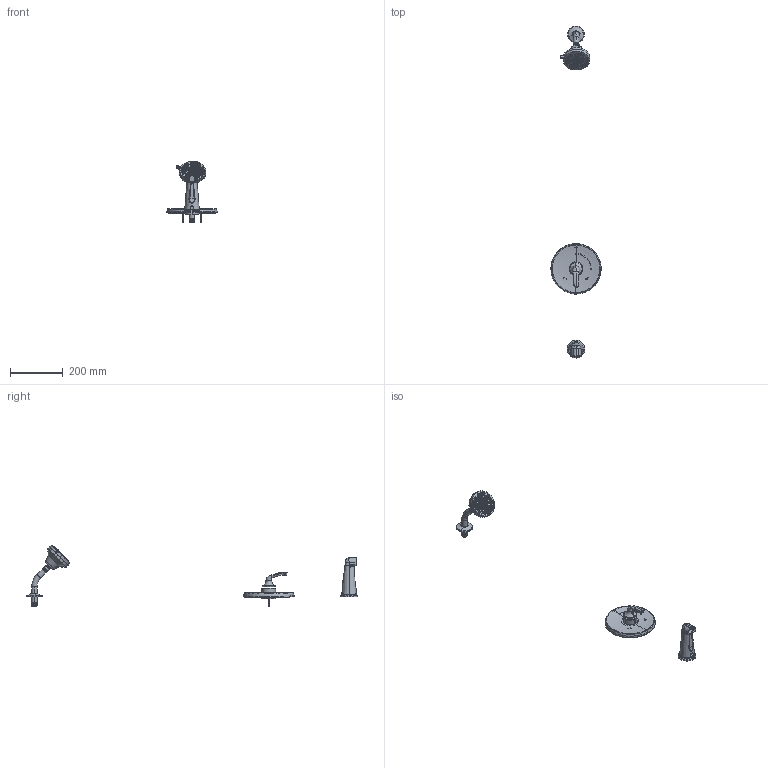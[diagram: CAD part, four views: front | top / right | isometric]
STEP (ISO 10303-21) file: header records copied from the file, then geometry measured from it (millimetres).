
FILE_DESCRIPTION (( 'STEP AP203' ), '1' );
FILE_NAME ('5592.STEP', '2025-01-16T21:53:56', ( '' ), ( '' ), 'SwSTEP 2.0', 'SolidWorks 2023', '' );
FILE_SCHEMA (( 'CONFIG_CONTROL_DESIGN' ));
Length unit declared in the file: inch
Products named in the file (1): 5592
Bounding box: 190.86 x 1259.09 x 234.13 mm (x, y, z)
Surface area: 241303.8 mm2 (no closed solid volume)
Topology: 0 solids, 223 shells, 1111 faces, 4056 edges, 3071 vertices
Faces by surface type: plane 311, cylinder 289, cone 223, bspline 202, torus 67, sphere 19
Entity records: 120176 total; most frequent: CARTESIAN_POINT 89503, ORIENTED_EDGE 5902, DIRECTION 5264, EDGE_CURVE 4051, VERTEX_POINT 3068, AXIS2_PLACEMENT_3D 2036, B_SPLINE_CURVE_WITH_KNOTS 1685, EDGE_LOOP 1392
